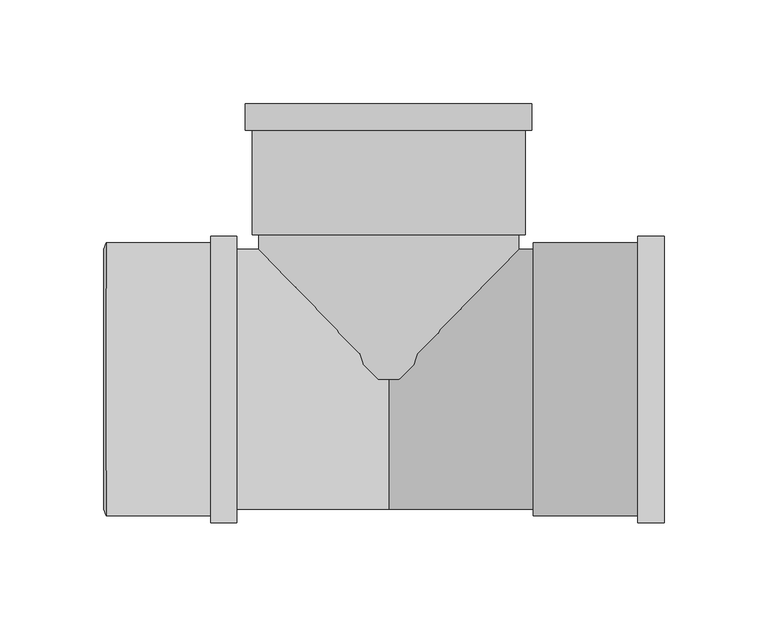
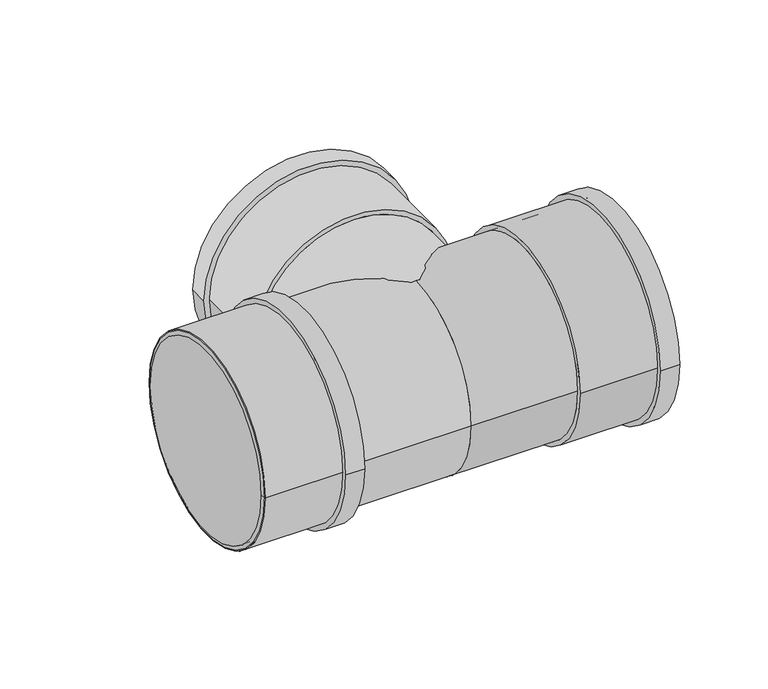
"""IFC4 building model written with IfcOpenShell, lengths in millimetres: pipe fitting geometry, Superdrain HTEA Branch : Superdrain HTEA Branch."""

from ifc_helpers import new_model, si_unit, point, frame, origin, origin_2d, place, context, project, spatial, polyline, circle_curve, trimmed, segment, composite_curve, outline, extrude, source, transform, mapped, element, save
from ifc_brep_helpers import plane_surface, revolved_surface, advanced_brep


def pipe_fitting_fd19a80a(model_context):
    return source(origin(), model_context, "Body", "SolidModel", [
        extrude(outline(composite_curve([segment(trimmed(circle_curve(origin_2d(), 65.625), [point((65.625, 0.0))], [point((-65.625, 0.0))], False, "CARTESIAN"), True, "CONTINUOUS"), segment(trimmed(circle_curve(origin_2d(), 65.625), [point((-65.625, 0.0))], [point((65.625, 0.0))], False, "CARTESIAN"), True, "CONTINUOUS")], self_intersect=False), holes=[composite_curve([segment(trimmed(circle_curve(origin_2d(), 62.5), [point((62.5, 0.0))], [point((-62.5, 0.0))], True, "CARTESIAN"), True, "CONTINUOUS"), segment(trimmed(circle_curve(origin_2d(), 62.5), [point((-62.5, 0.0))], [point((62.5, 0.0))], True, "CARTESIAN"), True, "CONTINUOUS")], self_intersect=False)]), frame((-136.0, 0.0, 0.0), z_axis=(1.0, 0.0, 0.0), x_axis=(0.0, 1.0, 0.0)), (0.0, 0.0, 1.0), 63.0),
        extrude(outline(composite_curve([segment(trimmed(circle_curve(origin_2d(), 68.90625), [point((68.90625, 0.0))], [point((-68.90625, 0.0))], False, "CARTESIAN"), True, "CONTINUOUS"), segment(trimmed(circle_curve(origin_2d(), 68.90625), [point((-68.90625, 0.0))], [point((68.90625, 0.0))], False, "CARTESIAN"), True, "CONTINUOUS")], self_intersect=False), holes=[composite_curve([segment(trimmed(circle_curve(origin_2d(), 62.5), [point((62.5, 0.0))], [point((-62.5, 0.0))], True, "CARTESIAN"), True, "CONTINUOUS"), segment(trimmed(circle_curve(origin_2d(), 62.5), [point((-62.5, 0.0))], [point((62.5, 0.0))], True, "CARTESIAN"), True, "CONTINUOUS")], self_intersect=False)]), frame((-85.6, 0.0, 0.0), z_axis=(1.0, 0.0, 0.0), x_axis=(0.0, 1.0, 0.0)), (0.0, 0.0, 1.0), 12.6),
        advanced_brep(
        [(-137.0, 62.5, 0.0), (-137.0, -62.5, 0.0), (-136.0, 65.625, 0.0), (-136.0, -65.625, 0.0)],
        [
            (0, 1, circle_curve(frame((-137.0, 0.0, 0.0), z_axis=(-1.0, 0.0, 0.0), x_axis=(0.0, 1.0, 0.0)), 62.5)),
            (1, 0, circle_curve(frame((-137.0, 0.0, 0.0), z_axis=(-1.0, 0.0, 0.0), x_axis=(0.0, -1.0, 0.0)), 62.5)),
            (2, 3, circle_curve(frame((-136.0, 0.0, 0.0), z_axis=(1.0, 0.0, 0.0), x_axis=(0.0, -1.0, 0.0)), 65.625)),
            (3, 2, circle_curve(frame((-136.0, 0.0, 0.0), z_axis=(1.0, 0.0, 0.0), x_axis=(0.0, 1.0, 0.0)), 65.625)),
            (3, 1),
            (0, 2),
        ],
        [
            plane_surface(frame((-137.0, 0.0, 0.0), z_axis=(-1.0, 0.0, 0.0), x_axis=(0.0, 0.0, -1.0))),
            plane_surface(frame((-136.0, 0.0, 0.0), z_axis=(1.0, 0.0, 0.0), x_axis=(0.0, 0.0, -1.0))),
            revolved_surface(polyline([(-137.0, 62.5, 0.0), (-136.0, 65.625, 0.0)]), (-157.0, 0.0, 0.0), (1.0, 0.0, 0.0)),
            revolved_surface(polyline([(-137.0, -62.5, 0.0), (-136.0, -65.625, 0.0)]), (-157.0, 0.0, 0.0), (1.0, 0.0, 0.0)),
        ],
        [
            (0, [[1, 2]]),
            (1, [[3, 4]]),
            (2, [[-4, 5, -1, 6]]),
            (3, [[-3, -6, -2, -5]]),
        ],
    ),
        extrude(outline(composite_curve([segment(trimmed(circle_curve(origin_2d(), 65.625), [point((-65.625, 0.0))], [point((65.625, 0.0))], False, "CARTESIAN"), True, "CONTINUOUS"), segment(trimmed(circle_curve(origin_2d(), 65.625), [point((65.625, 0.0))], [point((-65.625, 0.0))], False, "CARTESIAN"), True, "CONTINUOUS")], self_intersect=False), holes=[composite_curve([segment(trimmed(circle_curve(origin_2d(), 62.5), [point((62.5, 0.0))], [point((-62.5, 0.0))], True, "CARTESIAN"), True, "CONTINUOUS"), segment(trimmed(circle_curve(origin_2d(), 62.5), [point((-62.5, 0.0))], [point((62.5, 0.0))], True, "CARTESIAN"), True, "CONTINUOUS")], self_intersect=False)]), frame((69.5, 0.0, 0.0), z_axis=(1.0, 0.0, 0.0), x_axis=(0.0, 1.0, 0.0)), (0.0, 0.0, 1.0), 63.0),
        extrude(outline(composite_curve([segment(trimmed(circle_curve(origin_2d(), 68.90625), [point((68.90625, 0.0))], [point((-68.90625, 0.0))], False, "CARTESIAN"), True, "CONTINUOUS"), segment(trimmed(circle_curve(origin_2d(), 68.90625), [point((-68.90625, 0.0))], [point((68.90625, 0.0))], False, "CARTESIAN"), True, "CONTINUOUS")], self_intersect=False), holes=[composite_curve([segment(trimmed(circle_curve(origin_2d(), 62.5), [point((62.5, 0.0))], [point((-62.5, 0.0))], True, "CARTESIAN"), True, "CONTINUOUS"), segment(trimmed(circle_curve(origin_2d(), 62.5), [point((-62.5, 0.0))], [point((62.5, 0.0))], True, "CARTESIAN"), True, "CONTINUOUS")], self_intersect=False)]), frame((119.9, 0.0, 0.0), z_axis=(1.0, 0.0, 0.0), x_axis=(0.0, 1.0, 0.0)), (0.0, 0.0, 1.0), 12.6),
        extrude(outline(composite_curve([segment(trimmed(circle_curve(origin_2d(), 62.5), [point((0.0, 62.5))], [point((0.0, -62.5))], False, "CARTESIAN"), True, "CONTINUOUS"), segment(trimmed(circle_curve(origin_2d(), 62.5), [point((0.0, -62.5))], [point((0.0, 62.5))], False, "CARTESIAN"), True, "CONTINUOUS")], self_intersect=False)), frame((0.0, 0.0, 0.0), z_axis=(0.0, 1.0, 0.0), x_axis=(0.0, 0.0, 1.0)), (0.0, 0.0, 1.0), 69.5),
        extrude(outline(composite_curve([segment(trimmed(circle_curve(origin_2d(), 62.5), [point((62.5, 0.0))], [point((-62.5, 0.0))], False, "CARTESIAN"), True, "CONTINUOUS"), segment(trimmed(circle_curve(origin_2d(), 62.5), [point((-62.5, 0.0))], [point((62.5, 0.0))], False, "CARTESIAN"), True, "CONTINUOUS")], self_intersect=False)), frame((-136.0, 0.0, 0.0), z_axis=(1.0, 0.0, 0.0), x_axis=(0.0, 1.0, 0.0)), (0.0, 0.0, 1.0), 136.0),
        extrude(outline(composite_curve([segment(trimmed(circle_curve(origin_2d(), 62.5), [point((-62.5, 0.0))], [point((62.5, 0.0))], False, "CARTESIAN"), True, "CONTINUOUS"), segment(trimmed(circle_curve(origin_2d(), 62.5), [point((62.5, 0.0))], [point((-62.5, 0.0))], False, "CARTESIAN"), True, "CONTINUOUS")], self_intersect=False)), frame((0.0, 0.0, 0.0), z_axis=(1.0, 0.0, 0.0), x_axis=(0.0, 1.0, 0.0)), (0.0, 0.0, 1.0), 69.5),
        extrude(outline(composite_curve([segment(trimmed(circle_curve(origin_2d(), 68.90625), [point((0.0, 68.90625))], [point((0.0, -68.90625))], False, "CARTESIAN"), True, "CONTINUOUS"), segment(trimmed(circle_curve(origin_2d(), 68.90625), [point((0.0, -68.90625))], [point((0.0, 68.90625))], False, "CARTESIAN"), True, "CONTINUOUS")], self_intersect=False), holes=[composite_curve([segment(trimmed(circle_curve(origin_2d(), 62.5), [point((0.0, 62.5))], [point((0.0, -62.5))], True, "CARTESIAN"), True, "CONTINUOUS"), segment(trimmed(circle_curve(origin_2d(), 62.5), [point((0.0, -62.5))], [point((0.0, 62.5))], True, "CARTESIAN"), True, "CONTINUOUS")], self_intersect=False)]), frame((0.0, 119.9, 0.0), z_axis=(0.0, 1.0, 0.0), x_axis=(0.0, 0.0, 1.0)), (0.0, 0.0, 1.0), 12.6),
        extrude(outline(composite_curve([segment(trimmed(circle_curve(origin_2d(), 65.625), [point((0.0, 65.625))], [point((0.0, -65.625))], False, "CARTESIAN"), True, "CONTINUOUS"), segment(trimmed(circle_curve(origin_2d(), 65.625), [point((0.0, -65.625))], [point((0.0, 65.625))], False, "CARTESIAN"), True, "CONTINUOUS")], self_intersect=False), holes=[composite_curve([segment(trimmed(circle_curve(origin_2d(), 62.5), [point((0.0, 62.5))], [point((0.0, -62.5))], True, "CARTESIAN"), True, "CONTINUOUS"), segment(trimmed(circle_curve(origin_2d(), 62.5), [point((0.0, -62.5))], [point((0.0, 62.5))], True, "CARTESIAN"), True, "CONTINUOUS")], self_intersect=False)]), frame((0.0, 69.5, 0.0), z_axis=(0.0, 1.0, 0.0), x_axis=(0.0, 0.0, 1.0)), (0.0, 0.0, 1.0), 63.0),
    ])


if __name__ == "__main__":
    model = new_model("IFC4")
    model_context = context("Model", 3, world=origin())
    ifc_project = project(units=[si_unit("LENGTHUNIT", "METRE", prefix="MILLI")], contexts=[model_context])
    site = spatial("IfcSite", under=ifc_project)
    building = spatial("IfcBuilding", under=site)
    placement = place(None, origin())
    pipe_fitting_shape = pipe_fitting_fd19a80a(model_context)
    element("IfcPipeFitting", 1, ObjectType="Superdrain HTEA Branch : Superdrain HTEA Branch", at=placement, inside=building, context=model_context, shape_type="MappedRepresentation", body=[
        mapped(pipe_fitting_shape, transform((0.0, 0.0, 0.0), x_axis=(1.0, 0.0, 0.0), y_axis=(0.0, 1.0, 0.0), z_axis=(0.0, 0.0, 1.0))),
    ])
    save(model, "model.ifc")
